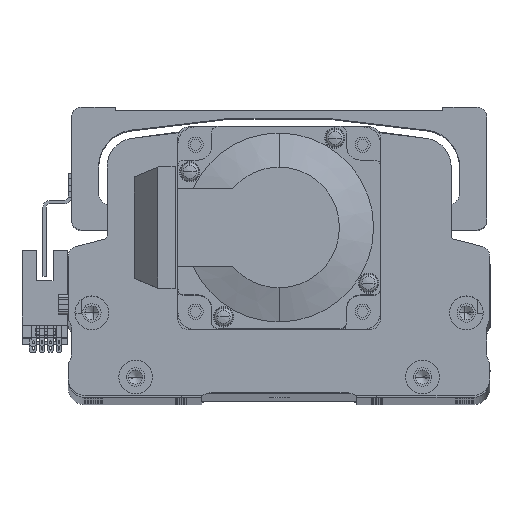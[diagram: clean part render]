
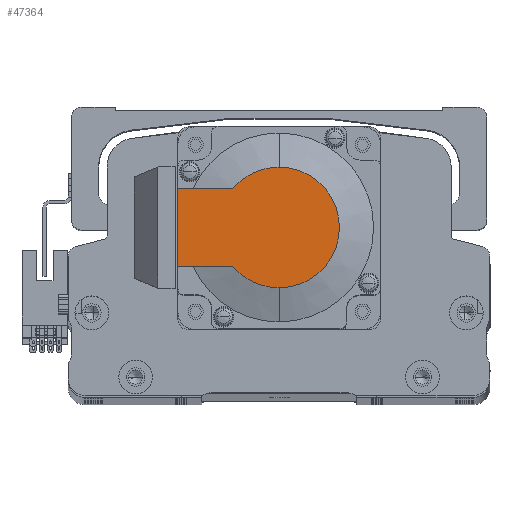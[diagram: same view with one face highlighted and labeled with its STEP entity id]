
A CAD part, top view. The second image highlights one B-rep face of the part: STEP entity #47364.
In plain terms, the highlighted planar face has unit normal (0, 0, 1) as drawn and (-1, 0, 0) by its records, which use the part's own axes.
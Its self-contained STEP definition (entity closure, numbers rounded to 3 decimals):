
#556 = EDGE_CURVE ( 'NONE', #42797, #16759, #19131, .T. ) ;
#4056 = VECTOR ( 'NONE', #14730, 1000. ) ;
#8764 = CARTESIAN_POINT ( 'NONE',  ( -118.5, -8.941, 0. ) ) ;
#10203 = CARTESIAN_POINT ( 'NONE',  ( -118.5, 0., 0. ) ) ;
#11357 = DIRECTION ( 'NONE',  ( 0., -1., 0. ) ) ;
#12377 = CARTESIAN_POINT ( 'NONE',  ( -118.5, 30., -11.45 ) ) ;
#13130 = EDGE_CURVE ( 'NONE', #16467, #31589, #17076, .T. ) ;
#13145 = ORIENTED_EDGE ( 'NONE', *, *, #13130, .T. ) ;
#13379 = DIRECTION ( 'NONE',  ( 0., 0., 1. ) ) ;
#14548 = CARTESIAN_POINT ( 'NONE',  ( -118.5, -8.941, -11.45 ) ) ;
#14730 = DIRECTION ( 'NONE',  ( 0., -1., 0. ) ) ;
#14778 = DIRECTION ( 'NONE',  ( 0., 0., -1. ) ) ;
#14927 = ORIENTED_EDGE ( 'NONE', *, *, #20171, .F. ) ;
#15297 = CARTESIAN_POINT ( 'NONE',  ( -118.5, 0., 0. ) ) ;
#15385 = LINE ( 'NONE', #41967, #39881 ) ;
#16467 = VERTEX_POINT ( 'NONE', #45173 ) ;
#16759 = VERTEX_POINT ( 'NONE', #29218 ) ;
#17076 = CIRCLE ( 'NONE', #34288, 17.881 ) ;
#17766 = PLANE ( 'NONE',  #52054 ) ;
#19131 = LINE ( 'NONE', #14548, #4056 ) ;
#19228 = LINE ( 'NONE', #52604, #42301 ) ;
#19629 = CARTESIAN_POINT ( 'NONE',  ( -118.5, 13.735, 11.45 ) ) ;
#19901 = CARTESIAN_POINT ( 'NONE',  ( -118.5, 0., 17.881 ) ) ;
#19939 = DIRECTION ( 'NONE',  ( 0., 0., -1. ) ) ;
#20171 = EDGE_CURVE ( 'NONE', #42797, #47484, #15385, .T. ) ;
#20839 = EDGE_CURVE ( 'NONE', #31589, #45575, #29357, .T. ) ;
#23515 = CIRCLE ( 'NONE', #53036, 17.881 ) ;
#23902 = DIRECTION ( 'NONE',  ( -1., 0., 0. ) ) ;
#27849 = DIRECTION ( 'NONE',  ( 0., 0., 1. ) ) ;
#28175 = FACE_OUTER_BOUND ( 'NONE', #53483, .T. ) ;
#29218 = CARTESIAN_POINT ( 'NONE',  ( -118.5, 13.735, -11.45 ) ) ;
#29357 = CIRCLE ( 'NONE', #44051, 17.881 ) ;
#31589 = VERTEX_POINT ( 'NONE', #19901 ) ;
#34288 = AXIS2_PLACEMENT_3D ( 'NONE', #10203, #42361, #14778 ) ;
#35288 = ORIENTED_EDGE ( 'NONE', *, *, #556, .T. ) ;
#39845 = ORIENTED_EDGE ( 'NONE', *, *, #44347, .F. ) ;
#39881 = VECTOR ( 'NONE', #27849, 1000. ) ;
#40932 = DIRECTION ( 'NONE',  ( -1., 0., 0. ) ) ;
#41967 = CARTESIAN_POINT ( 'NONE',  ( -118.5, 30., 25. ) ) ;
#42301 = VECTOR ( 'NONE', #11357, 1000. ) ;
#42361 = DIRECTION ( 'NONE',  ( -1., 0., 0. ) ) ;
#42797 = VERTEX_POINT ( 'NONE', #12377 ) ;
#43771 = ORIENTED_EDGE ( 'NONE', *, *, #56937, .T. ) ;
#44051 = AXIS2_PLACEMENT_3D ( 'NONE', #15297, #47549, #19939 ) ;
#44347 = EDGE_CURVE ( 'NONE', #47484, #45575, #19228, .T. ) ;
#45173 = CARTESIAN_POINT ( 'NONE',  ( -118.5, 0., -17.881 ) ) ;
#45575 = VERTEX_POINT ( 'NONE', #19629 ) ;
#46821 = CARTESIAN_POINT ( 'NONE',  ( -118.5, 30., 11.45 ) ) ;
#47364 = ADVANCED_FACE ( 'NONE', ( #28175 ), #17766, .T. ) ;
#47484 = VERTEX_POINT ( 'NONE', #46821 ) ;
#47549 = DIRECTION ( 'NONE',  ( -1., 0., 0. ) ) ;
#51479 = CARTESIAN_POINT ( 'NONE',  ( -118.5, 0., 0. ) ) ;
#52054 = AXIS2_PLACEMENT_3D ( 'NONE', #8764, #40932, #13379 ) ;
#52604 = CARTESIAN_POINT ( 'NONE',  ( -118.5, 0., 11.45 ) ) ;
#53036 = AXIS2_PLACEMENT_3D ( 'NONE', #51479, #23902, #56106 ) ;
#53311 = ORIENTED_EDGE ( 'NONE', *, *, #20839, .T. ) ;
#53483 = EDGE_LOOP ( 'NONE', ( #35288, #43771, #13145, #53311, #39845, #14927 ) ) ;
#56106 = DIRECTION ( 'NONE',  ( 0., 0., -1. ) ) ;
#56937 = EDGE_CURVE ( 'NONE', #16759, #16467, #23515, .T. ) ;
